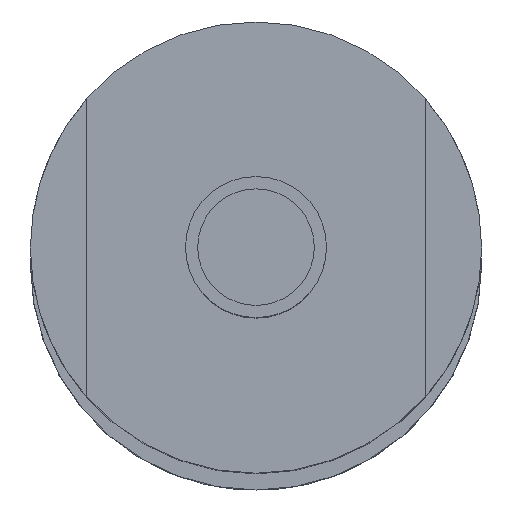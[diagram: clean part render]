
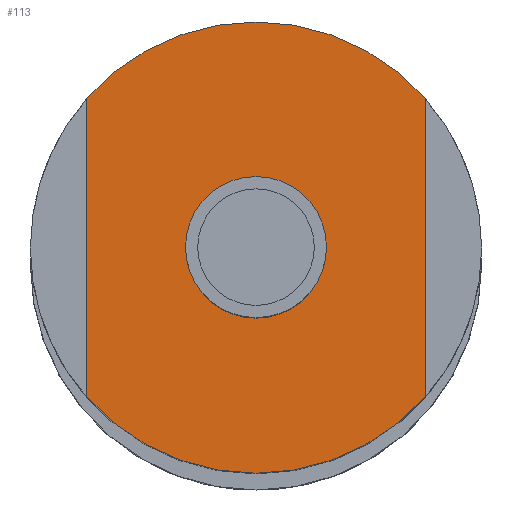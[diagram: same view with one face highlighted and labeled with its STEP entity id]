
A CAD part, top view. The second image highlights one B-rep face of the part: STEP entity #113.
In plain terms, the highlighted planar face has unit normal (0, 0, 1).
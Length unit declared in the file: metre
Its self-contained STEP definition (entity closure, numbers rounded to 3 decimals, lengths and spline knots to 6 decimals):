
#113=ADVANCED_FACE('17:304',(#222,#223),#224,.T.);
#222=FACE_BOUND('',#340,.T.);
#223=FACE_OUTER_BOUND('',#341,.T.);
#224=PLANE('',#342);
#340=EDGE_LOOP('',(#550,#551));
#341=EDGE_LOOP('',(#552,#553,#554,#555,#556,#557));
#342=AXIS2_PLACEMENT_3D('',#558,#559,#560);
#550=ORIENTED_EDGE('',*,*,#643,.T.);
#551=ORIENTED_EDGE('',*,*,#714,.T.);
#552=ORIENTED_EDGE('',*,*,#716,.F.);
#553=ORIENTED_EDGE('',*,*,#653,.F.);
#554=ORIENTED_EDGE('',*,*,#652,.F.);
#555=ORIENTED_EDGE('',*,*,#701,.T.);
#556=ORIENTED_EDGE('',*,*,#708,.F.);
#557=ORIENTED_EDGE('',*,*,#707,.F.);
#558=CARTESIAN_POINT('',(0.,0.,0.269));
#559=DIRECTION('',(0.0,0.0,1.0));
#560=DIRECTION('',(1.0,0.0,0.0));
#643=EDGE_CURVE('19:2123',#759,#756,#760,.F.);
#652=EDGE_CURVE('17:354',#774,#776,#777,.F.);
#653=EDGE_CURVE('17:345',#776,#778,#779,.F.);
#701=EDGE_CURVE('17:844',#774,#849,#850,.T.);
#707=EDGE_CURVE('17:351',#857,#859,#860,.F.);
#708=EDGE_CURVE('17:342',#859,#849,#861,.F.);
#714=EDGE_CURVE('',#756,#759,#867,.F.);
#716=EDGE_CURVE('17:790',#778,#857,#869,.F.);
#756=VERTEX_POINT('',#933);
#759=VERTEX_POINT('',#937);
#760=CIRCLE('',#938,0.0025);
#774=VERTEX_POINT('',#955);
#776=VERTEX_POINT('',#958);
#777=CIRCLE('',#959,0.008);
#778=VERTEX_POINT('',#960);
#779=CIRCLE('',#961,0.008);
#849=VERTEX_POINT('',#1046);
#850=LINE('',#1047,#1048);
#857=VERTEX_POINT('',#1057);
#859=VERTEX_POINT('',#1060);
#860=CIRCLE('',#1061,0.008);
#861=CIRCLE('',#1062,0.008);
#867=CIRCLE('',#1068,0.0025);
#869=LINE('',#1070,#1071);
#933=CARTESIAN_POINT('',(0.00239,0.000133,0.269));
#937=CARTESIAN_POINT('',(-0.00261,0.000133,0.269));
#938=AXIS2_PLACEMENT_3D('',#1144,#1145,#1146);
#955=CARTESIAN_POINT('',(-0.00611,0.005425,0.269));
#958=CARTESIAN_POINT('',(-0.00011,0.008133,0.269));
#959=AXIS2_PLACEMENT_3D('',#1160,#1161,#1162);
#960=CARTESIAN_POINT('',(0.00589,0.005425,0.269));
#961=AXIS2_PLACEMENT_3D('',#1163,#1164,#1165);
#1046=CARTESIAN_POINT('',(-0.00611,-0.005158,0.269));
#1047=CARTESIAN_POINT('',(-0.00611,0.000067,0.269));
#1048=VECTOR('',#1235,1.0);
#1057=CARTESIAN_POINT('',(0.00589,-0.005158,0.269));
#1060=CARTESIAN_POINT('',(-0.00011,-0.007867,0.269));
#1061=AXIS2_PLACEMENT_3D('',#1242,#1243,#1244);
#1062=AXIS2_PLACEMENT_3D('',#1245,#1246,#1247);
#1068=AXIS2_PLACEMENT_3D('',#1257,#1258,#1259);
#1070=CARTESIAN_POINT('',(0.00589,0.000067,0.269));
#1071=VECTOR('',#1260,1.0);
#1144=CARTESIAN_POINT('',(-0.00011,0.000133,0.269));
#1145=DIRECTION('',(0.0,0.0,1.0));
#1146=DIRECTION('',(1.0,0.0,-0.0));
#1160=CARTESIAN_POINT('',(-0.00011,0.000133,0.269));
#1161=DIRECTION('',(0.0,0.0,1.0));
#1162=DIRECTION('',(1.0,0.0,0.0));
#1163=CARTESIAN_POINT('',(-0.00011,0.000133,0.269));
#1164=DIRECTION('',(0.0,0.0,1.0));
#1165=DIRECTION('',(1.0,0.0,0.0));
#1235=DIRECTION('',(0.,-1.0,0.0));
#1242=CARTESIAN_POINT('',(-0.00011,0.000133,0.269));
#1243=DIRECTION('',(0.0,0.0,1.0));
#1244=DIRECTION('',(1.0,0.0,0.0));
#1245=CARTESIAN_POINT('',(-0.00011,0.000133,0.269));
#1246=DIRECTION('',(0.0,0.0,1.0));
#1247=DIRECTION('',(1.0,0.0,0.0));
#1257=CARTESIAN_POINT('',(-0.00011,0.000133,0.269));
#1258=DIRECTION('',(0.0,0.0,1.0));
#1259=DIRECTION('',(1.0,0.0,-0.0));
#1260=DIRECTION('',(0.,1.0,0.0));
